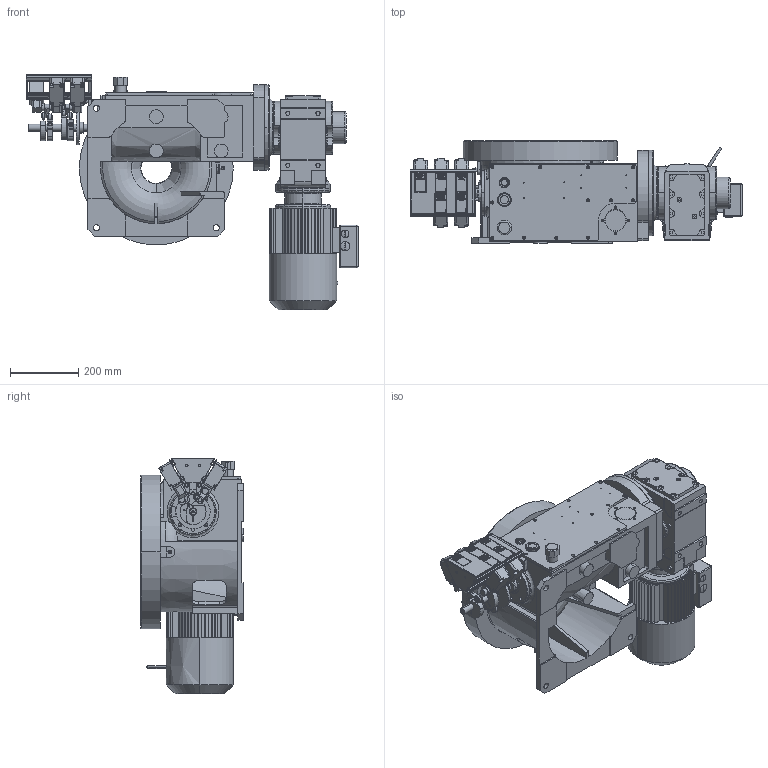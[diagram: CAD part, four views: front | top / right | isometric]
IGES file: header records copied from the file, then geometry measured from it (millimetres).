
Start section:  PTC IGES file: a5772.igs
Global section: file name: a5772.igs; native system: Pro/ENGINEER by Parametric Technology Corporation; preprocessor: 2001040; author: Mueller; organization: Unknown; date: 040917.135604; units: millimetre
Bounding box: 971.1 x 300 x 689.5 mm (x, y, z)
Surface area: 2772239.2 mm2 (no closed solid volume)
Topology: 0 solids, 0 shells, 2443 faces, 23215 edges, 23100 vertices
Faces by surface type: bspline 1404, revolution 1039
